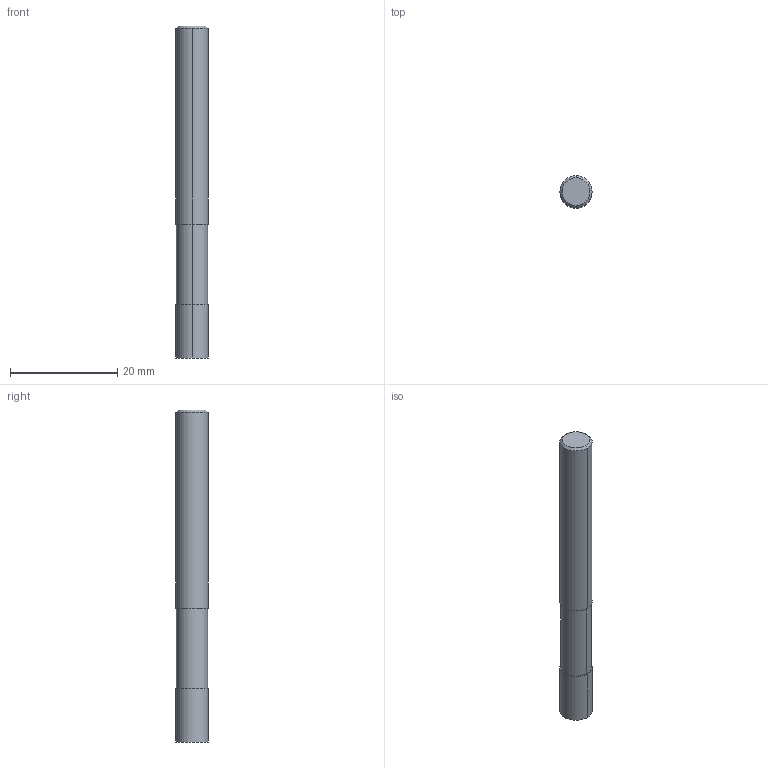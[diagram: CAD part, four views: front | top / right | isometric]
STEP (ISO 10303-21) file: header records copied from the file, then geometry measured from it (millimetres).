
FILE_DESCRIPTION((''),'2;1');
FILE_NAME('DIN4003_82_HEURO','2016-04-11T',('automc'),(''),'PRO/ENGINEER BY PARAMETRIC TECHNOLOGY CORPORATION, 2015280','PRO/ENGINEER BY PARAMETRIC TECHNOLOGY CORPORATION, 2015280','');
FILE_SCHEMA(('AUTOMOTIVE_DESIGN { 1 0 10303 214 1 1 1 1 }'));
Length unit declared in the file: millimetre
Products named in the file (1): DIN4003_82_HEURO
Bounding box: 6 x 6 x 62 mm (x, y, z)
Volume: 1723.8 mm3; surface area: 1214.9 mm2
Topology: 1 solids, 1 shells, 12 faces, 24 edges, 17 vertices
Faces by surface type: bspline 12
Entity records: 704 total; most frequent: CARTESIAN_POINT 219, DIRECTION 68, ORIENTED_EDGE 44, AXIS2_PLACEMENT_3D 26, PRESENTATION_STYLE_ASSIGNMENT 23, STYLED_ITEM 23, EDGE_CURVE 22, VECTOR 16
